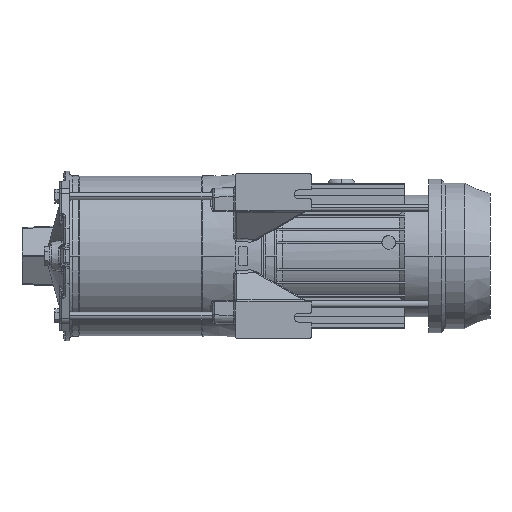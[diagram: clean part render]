
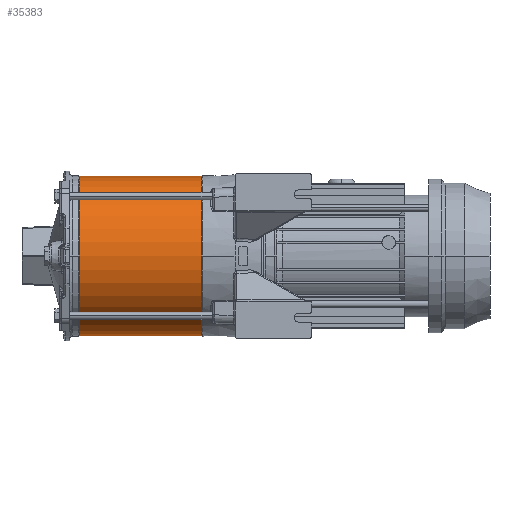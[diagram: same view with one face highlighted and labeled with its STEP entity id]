
A CAD part, front view. The second image highlights one B-rep face of the part: STEP entity #35383.
In plain terms, the highlighted cylindrical face has radius 64.5 mm (diameter 129 mm), a partial arc.
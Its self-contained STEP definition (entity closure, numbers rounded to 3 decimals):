
#35238=CARTESIAN_POINT('',(0.,0.,0.));
#35239=DIRECTION('',(0.,0.,1.));
#35240=DIRECTION('',(-1.,0.,0.));
#35241=AXIS2_PLACEMENT_3D('',#35238,#35239,#35240);
#35262=DIRECTION('',(0.,0.,1.));
#35263=VECTOR('',#35262,99.);
#35264=CARTESIAN_POINT('',(64.5,0.,0.));
#35265=LINE('',#35264,#35263);
#35269=DIRECTION('',(0.,0.,1.));
#35270=VECTOR('',#35269,99.);
#35271=CARTESIAN_POINT('',(-64.5,0.,0.));
#35272=LINE('',#35271,#35270);
#35284=CARTESIAN_POINT('',(0.,0.,99.));
#35285=DIRECTION('',(0.,0.,1.));
#35286=DIRECTION('',(-1.,0.,0.));
#35287=AXIS2_PLACEMENT_3D('',#35284,#35285,#35286);
#35322=CARTESIAN_POINT('',(64.5,0.,0.));
#35323=CARTESIAN_POINT('',(-64.5,0.,0.));
#35324=VERTEX_POINT('',#35322);
#35325=VERTEX_POINT('',#35323);
#35330=CARTESIAN_POINT('',(64.5,0.,99.));
#35331=CARTESIAN_POINT('',(-64.5,0.,99.));
#35332=VERTEX_POINT('',#35330);
#35333=VERTEX_POINT('',#35331);
#35371=CARTESIAN_POINT('',(0.,0.,0.));
#35372=DIRECTION('',(0.,0.,1.));
#35373=DIRECTION('',(1.,0.,0.));
#35374=AXIS2_PLACEMENT_3D('',#35371,#35372,#35373);
#35375=CYLINDRICAL_SURFACE('',#35374,64.5);
#35376=ORIENTED_EDGE('',*,*,#35345,.F.);
#35377=ORIENTED_EDGE('',*,*,#35366,.T.);
#35379=ORIENTED_EDGE('',*,*,#35378,.T.);
#35380=ORIENTED_EDGE('',*,*,#35362,.F.);
#35381=EDGE_LOOP('',(#35376,#35377,#35379,#35380));
#35382=FACE_OUTER_BOUND('',#35381,.F.);
#35242=CIRCLE('',#35241,64.5);
#35288=CIRCLE('',#35287,64.5);
#35345=EDGE_CURVE('',#35325,#35324,#35242,.T.);
#35362=EDGE_CURVE('',#35324,#35332,#35265,.T.);
#35366=EDGE_CURVE('',#35325,#35333,#35272,.T.);
#35378=EDGE_CURVE('',#35333,#35332,#35288,.T.);
#35383=ADVANCED_FACE('',(#35382),#35375,.T.);
